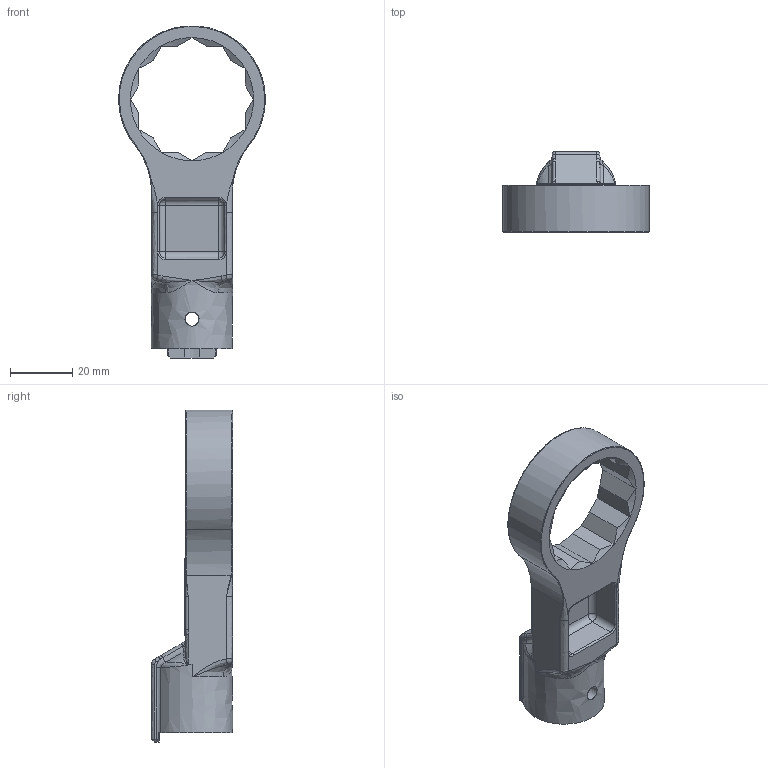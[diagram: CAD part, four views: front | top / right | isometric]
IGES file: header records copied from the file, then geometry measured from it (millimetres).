
Global section: file name: RH19DX34; native system: Autodesk Inventor 2016; preprocessor: unknown; author: q588; date: 20151110.164535; units: millimetre
Bounding box: 47 x 26 x 106.47 mm (x, y, z)
Volume: 26551.5 mm3; surface area: 12567.3 mm2
Topology: 1 solids, 1 shells, 200 faces, 502 edges, 283 vertices
Faces by surface type: bspline 200
